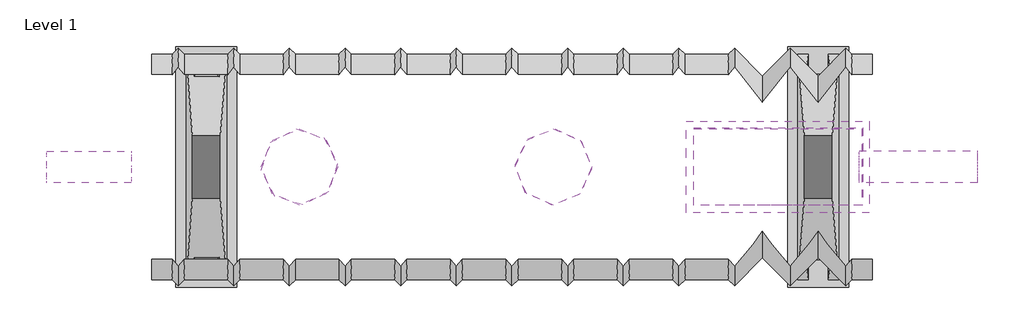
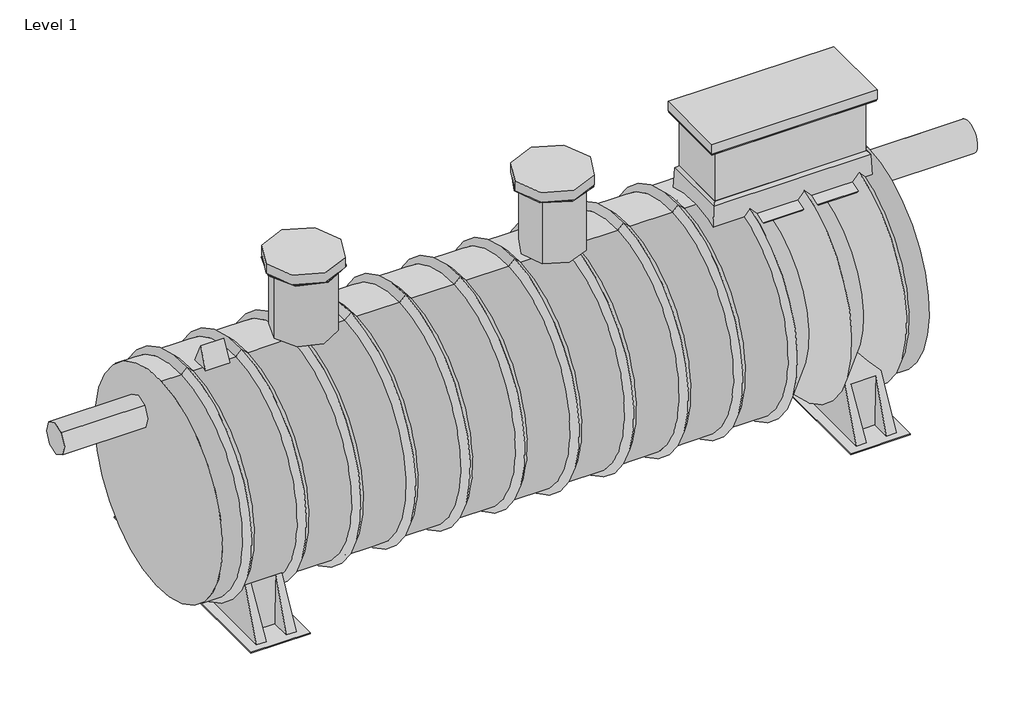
# One storey, incomplete: 12 proxies.
"""IFC4 building model written with IfcOpenShell, lengths in millimetres."""

from ifc_helpers import new_model, si_unit, origin, place, context, project, spatial, transform, mapped, element, save
from components import generic_models_ed58a86c, generic_models_40013f77, generic_models_2a316d6d, generic_models_b990888b, generic_models_8ad0125c, generic_models_1b11bcf1, generic_models_729f58d3, iso_4065_pipe_dn315x2_5xs63_1365_7b087b5c, iso_4065_pipe_dn315x2_5xs63_1365_1_c332223b

model = new_model("IFC4")

# Units and contexts
model_context = context("Model", 3, world=origin())
ifc_project = project(units=[si_unit("LENGTHUNIT", "METRE", prefix="MILLI")], contexts=[model_context])

# Site, building, storey
site = spatial("IfcSite", under=ifc_project)
building = spatial("IfcBuilding", under=site)
storey = spatial("IfcBuildingStorey", under=building, Name="Level 1", Elevation=0.0)

# Proxies
placement = place(None, origin())
generic_models_shape = generic_models_ed58a86c(model_context)
element("IfcBuildingElementProxy", 1, Name="SU.600mmDia.ManwayRiser.700-10", ObjectType="SU.600mmDia.ManwayRiser.700-10", at=placement, inside=storey, context=model_context, shape_type="MappedRepresentation", body=[
    mapped(generic_models_shape, transform((-3126.9746197, 0.0, 1719.9492089), x_axis=(0.9963198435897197, 0.0857132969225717, 0.0), y_axis=(0.0, 0.0, 1.0000000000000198), z_axis=(0.0857132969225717, -0.9963198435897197, 0.0))),
])
element("IfcBuildingElementProxy", 2, Name="SU.600mmDia.ManwayRiser.700-10", ObjectType="SU.600mmDia.ManwayRiser.700-10", at=placement, inside=storey, context=model_context, shape_type="MappedRepresentation", body=[
    mapped(generic_models_shape, transform((-626.9746197, 0.0, 1719.9492089), x_axis=(-0.7350844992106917, -0.6779755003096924, 0.0), y_axis=(0.0, 0.0, 0.9999999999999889), z_axis=(-0.6779755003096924, 0.7350844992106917, 0.0))),
])
generic_models_2_shape = generic_models_40013f77(model_context)
element("IfcBuildingElementProxy", 3, Name="SU.HS.FOOT.2200", ObjectType="SU.HS.FOOT.2200", at=placement, inside=storey, context=model_context, shape_type="MappedRepresentation", body=[
    mapped(generic_models_2_shape, transform((-4242.4726848, 0.0, -590.0507911), x_axis=(0.0, 1.0, 0.0), y_axis=(0.0, 0.0, 1.0), z_axis=(1.0, 0.0, 0.0))),
])
element("IfcBuildingElementProxy", 4, Name="SU.HS.FOOT.2200", ObjectType="SU.HS.FOOT.2200", at=placement, inside=storey, context=model_context, shape_type="MappedRepresentation", body=[
    mapped(generic_models_2_shape, transform((1779.0267056, 0.0, -590.0507911), x_axis=(0.0, 1.0, 0.0), y_axis=(0.0, 0.0, 1.0), z_axis=(1.0, 0.0, 0.0))),
])
generic_models_3_shape = generic_models_2a316d6d(model_context)
element("IfcBuildingElementProxy", 5, Name="600mmDia Manway Cover", ObjectType="600mmDia Manway Cover", at=placement, inside=storey, context=model_context, shape_type="MappedRepresentation", body=[
    mapped(generic_models_3_shape, transform((-626.9746197, 0.0, 2419.9492089), x_axis=(1.0, 0.0, 0.0), y_axis=(0.0, 0.0, 1.0), z_axis=(0.0, -1.0, 0.0))),
])
element("IfcBuildingElementProxy", 6, Name="600mmDia Manway Cover", ObjectType="600mmDia Manway Cover", at=placement, inside=storey, context=model_context, shape_type="MappedRepresentation", body=[
    mapped(generic_models_3_shape, transform((-3126.9746197, 0.0, 2419.9492089), x_axis=(1.0, 0.0, 0.0), y_axis=(0.0, 0.0, 1.0), z_axis=(0.0, -1.0, 0.0))),
])
generic_models_4_shape = generic_models_b990888b(model_context)
element("IfcBuildingElementProxy", 7, Name="600x1500 Manway Riser", ObjectType="600x1500 Manway Riser", at=placement, inside=storey, context=model_context, shape_type="MappedRepresentation", body=[
    mapped(generic_models_4_shape, transform((1580.0000542, 0.0, 2419.9492089), x_axis=(0.0, 1.0, 0.0), y_axis=(0.0, 0.0, 1.0), z_axis=(1.0, 0.0, 0.0))),
])
generic_models_5_shape = generic_models_8ad0125c(model_context)
element("IfcBuildingElementProxy", 8, Name="SU.MRADAPTOR.2200.600Lx1500W", ObjectType="SU.MRADAPTOR.2200.600Lx1500W", at=placement, inside=storey, context=model_context, shape_type="MappedRepresentation", body=[
    mapped(generic_models_5_shape, transform((1580.0000542, 0.0, 1652.9492089), x_axis=(0.0, -1.0, 0.0), y_axis=(0.0, 0.0, 1.0), z_axis=(-1.0, 0.0, 0.0))),
])
generic_models_6_shape = generic_models_1b11bcf1(model_context)
element("IfcBuildingElementProxy", 9, Name="WIN.HB.2200x7090L-10", ObjectType="WIN.HB.2200x7090L-10", at=placement, inside=storey, context=model_context, shape_type="MappedRepresentation", body=[
    mapped(generic_models_6_shape, transform((2510.0000542, 0.0, 569.9492089), x_axis=(1.000000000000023, 0.0, 0.0), y_axis=(0.0, -0.04067764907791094, 0.999172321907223), z_axis=(0.0, -0.999172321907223, -0.04067764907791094))),
])
generic_models_7_shape = generic_models_729f58d3(model_context)
element("IfcBuildingElementProxy", 10, Name="600x1500 Manway Cover Class D ST-02", ObjectType="600x1500 Manway Cover Class D ST-02", at=placement, inside=storey, context=model_context, shape_type="MappedRepresentation", body=[
    mapped(generic_models_7_shape, transform((1585.0000542, 5.0, 2419.9492089), x_axis=(0.0, 1.0, 0.0), y_axis=(0.0, 0.0, 1.0), z_axis=(1.0, 0.0, 0.0))),
])
iso_4065_pipe_dn315x2_5xs63_1365_shape = iso_4065_pipe_dn315x2_5xs63_1365_7b087b5c(model_context)
element("IfcBuildingElementProxy", 11, Name="ISO 4065 Pipe DN315x2.5xS63 - 1365", ObjectType="ISO 4065 Pipe DN315x2.5xS63 - 1365", at=placement, inside=storey, context=model_context, shape_type="MappedRepresentation", body=[
    mapped(iso_4065_pipe_dn315x2_5xs63_1365_shape, transform((-5614.9999458, 0.0, 1406.9492089), x_axis=(1.0000000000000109, 0.0, 0.0), y_axis=(0.0, 0.643467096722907, -0.7654737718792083), z_axis=(0.0, 0.7654737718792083, 0.643467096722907))),
])
iso_4065_pipe_dn315x2_5xs63_1365_1_shape = iso_4065_pipe_dn315x2_5xs63_1365_1_c332223b(model_context)
element("IfcBuildingElementProxy", 12, Name="ISO 4065 Pipe DN315x2.5xS63 - 1365_1", ObjectType="ISO 4065 Pipe DN315x2.5xS63 - 1365_1", at=placement, inside=storey, context=model_context, shape_type="MappedRepresentation", body=[
    mapped(iso_4065_pipe_dn315x2_5xs63_1365_1_shape, transform((2380.0000542, 0.0, 1406.9492089), x_axis=(1.0000000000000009, 0.0, 0.0), y_axis=(0.0, 0.5027274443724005, 0.8644449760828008), z_axis=(0.0, -0.8644449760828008, 0.5027274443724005))),
])

save(model, "model.ifc")
